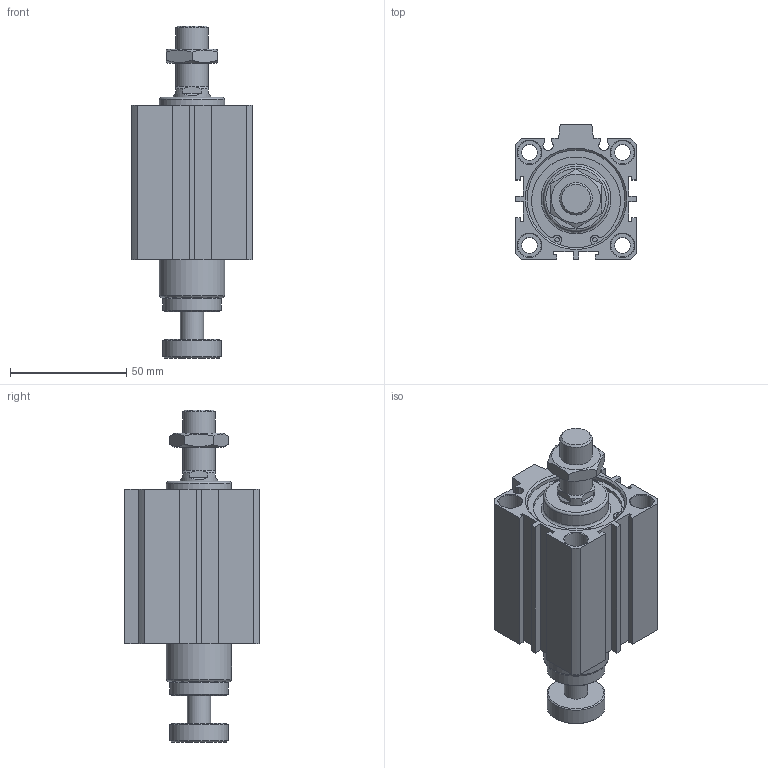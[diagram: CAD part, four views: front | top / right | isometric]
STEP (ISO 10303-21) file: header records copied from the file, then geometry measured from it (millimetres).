
FILE_DESCRIPTION((''),'2;1');
FILE_NAME('I:\3D電子目錄\氣缸\JDAR\JDAR-BS\JDAR40-BS\JDAR40x30-BS.stp','2007-05-05T14:13:27',('662F206'),(''),'Autodesk Inventor 11','Autodesk Inventor 11','');
FILE_SCHEMA(('AUTOMOTIVE_DESIGN { 1 0 10303 214 1 1 1 1 }'));
Length unit declared in the file: millimetre
Products named in the file (3): JDAR40-BS; R 形環 42
Assembly tree (3 placements, depth 2):
  JDAR40-BS
    JDAR40-BS
    R 形環 42  x2
Bounding box: 52 x 58 x 142.8 mm (x, y, z)
Volume: 178993.8 mm3; surface area: 41699.4 mm2
Topology: 3 solids, 3 shells, 179 faces, 418 edges, 271 vertices
Faces by surface type: plane 100, cylinder 50, cone 25, bspline 2, torus 2
Full cylindrical faces by diameter (mm): 1.9 x4, 2.2 x2, 6.8 x4, 10 x9, 14 x2, 16 x1, 25 x2, 28 x2, 42 x4, 44.5 x2
Entity records: 4585 total; most frequent: CARTESIAN_POINT 873, DIRECTION 770, ORIENTED_EDGE 654, EDGE_CURVE 327, AXIS2_PLACEMENT_3D 292, EDGE_LOOP 260, VERTEX_POINT 245, VECTOR 186
